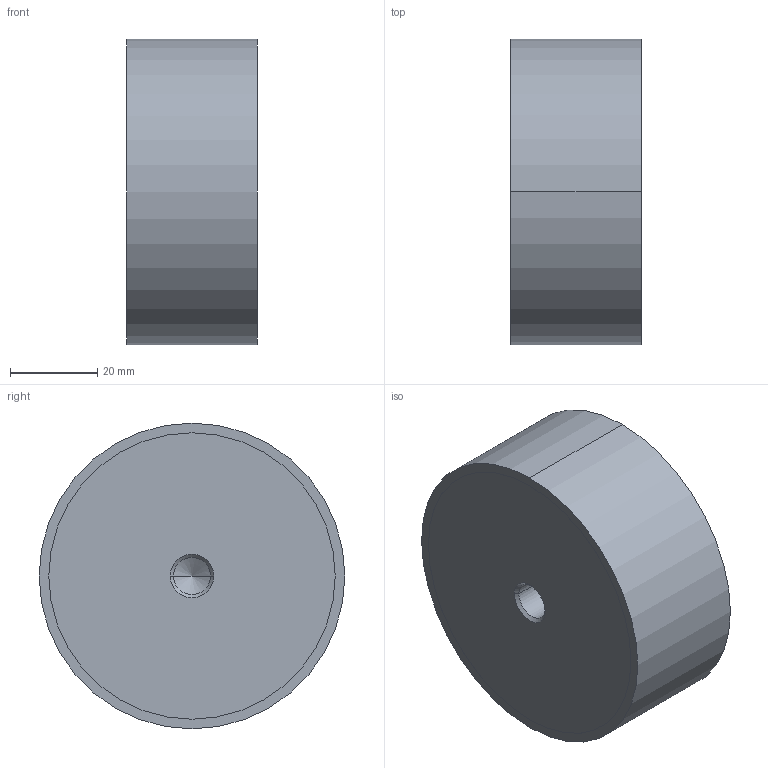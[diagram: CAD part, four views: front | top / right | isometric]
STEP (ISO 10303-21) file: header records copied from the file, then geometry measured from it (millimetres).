
FILE_DESCRIPTION (( 'STEP AP214' ), '1' );
FILE_NAME ('451-70-30-M10-EE-40.step', '2020-03-05T09:14:33', ( '' ), ( '' ), 'SwSTEP 2.0', 'SolidWorks 2019', '' );
FILE_SCHEMA (( 'AUTOMOTIVE_DESIGN' ));
Length unit declared in the file: millimetre
Products named in the file (1): 451-70-30-M10-EE-40
Bounding box: 30 x 70 x 70 mm (x, y, z)
Volume: 114140.1 mm3; surface area: 14829.1 mm2
Topology: 1 solids, 1 shells, 22 faces, 46 edges, 26 vertices
Faces by surface type: cylinder 10, cone 8, plane 4
Entity records: 684 total; most frequent: DIRECTION 112, CARTESIAN_POINT 91, ORIENTED_EDGE 84, AXIS2_PLACEMENT_3D 47, EDGE_CURVE 42, VERTEX_POINT 26, EDGE_LOOP 26, CIRCLE 24
